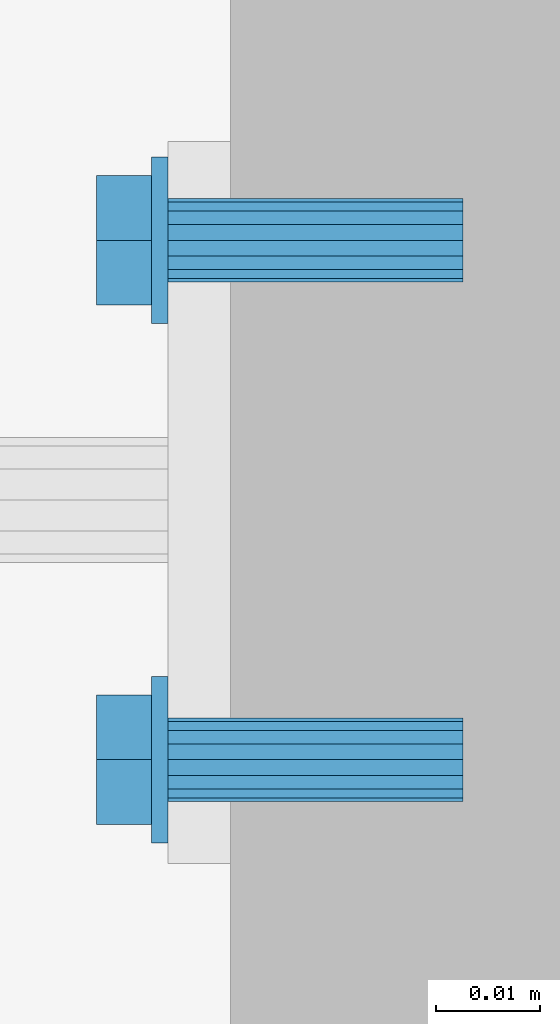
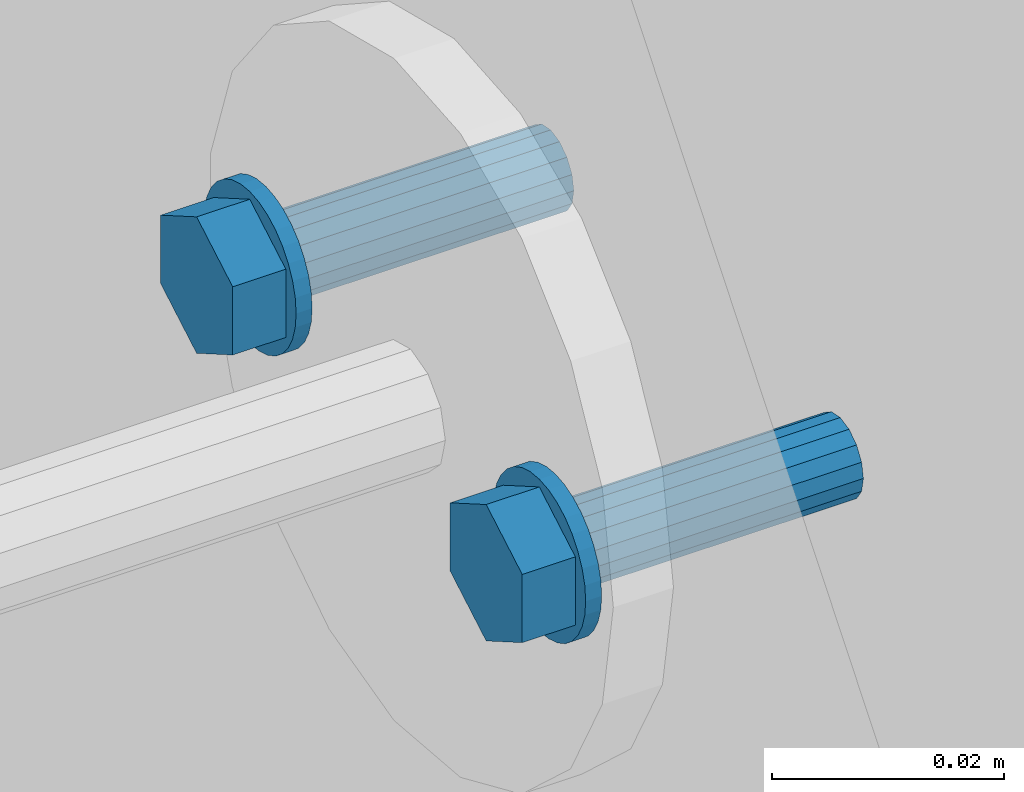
# One storey, part 362 of 410: 1 mechanical fastener.
"""IFC2X3 building model written with IfcOpenShell, lengths in millimetres."""

from ifc_helpers import new_model, entity, si_unit, converted_unit, origin_with_axes, place, context, project, spatial, faceted_brep, element, save


model = new_model("IFC2X3")

# Units and contexts
model_context = context("Model", 3, precision=1e-09, world=origin_with_axes())
ifc_project = project(units=[si_unit("LENGTHUNIT", "METRE", prefix="MILLI"), si_unit("AREAUNIT", "SQUARE_METRE"), si_unit("VOLUMEUNIT", "CUBIC_METRE"), converted_unit("PLANEANGLEUNIT", "DEGREE", entity("IfcPlaneAngleMeasure", 0.01745329), si_unit("PLANEANGLEUNIT", "RADIAN"), dimensions=[0, 0, 0, 0, 0, 0, 0])], contexts=[model_context])

# Site, building, storey
site_placement = place(None, origin_with_axes())
site = spatial("IfcSite", under=ifc_project, at=site_placement, Name="mKR Teilneubau & Sanierung BA1 - Ostfildern", CompositionType="ELEMENT")
building_placement = place(site_placement, origin_with_axes())
building = spatial("IfcBuilding", under=site, at=building_placement, Name="Struktur 1", CompositionType="ELEMENT")
storey_placement = place(building_placement, origin_with_axes())
storey = spatial("IfcBuildingStorey", under=building, at=storey_placement, Name="Default Storey", CompositionType="ELEMENT", Elevation=0.0)

# Mechanical fastener
mechanical_fastener_placement = place(None, origin_with_axes())
element("IfcMechanicalFastener", 1, at=mechanical_fastener_placement, inside=storey, ObjectType="-", NominalDiameter=8.0, NominalLength=30.0, context=model_context, shape_type="Brep", body=[
    faceted_brep([(3282.399216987, 18006.000030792, 2645.6434785), (3283.999216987, 18006.000030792, 2645.6434785), (3283.999216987, 18005.846313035, 2644.082755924), (3282.399216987, 18005.846313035, 2644.082755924), (3283.999216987, 18005.391067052, 2642.582011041), (3282.399216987, 18005.391067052, 2642.582011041), (3283.999216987, 18004.65178769, 2641.198916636), (3282.399216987, 18004.65178769, 2641.198916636), (3283.999216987, 18003.656885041, 2639.98662425), (3282.399216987, 18003.656885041, 2639.98662425), (3283.999216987, 18002.444592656, 2638.991721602), (3282.399216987, 18002.444592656, 2638.991721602), (3283.999216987, 18001.061498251, 2638.25244224), (3282.399216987, 18001.061498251, 2638.25244224), (3283.999216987, 17999.560753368, 2637.797196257), (3282.399216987, 17999.560753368, 2637.797196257), (3283.999216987, 17998.000030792, 2637.6434785), (3282.399216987, 17998.000030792, 2637.6434785), (3283.999216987, 17996.439308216, 2637.797196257), (3282.399216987, 17996.439308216, 2637.797196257), (3283.999216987, 17994.938563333, 2638.25244224), (3282.399216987, 17994.938563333, 2638.25244224), (3283.999216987, 17993.555468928, 2638.991721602), (3282.399216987, 17993.555468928, 2638.991721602), (3283.999216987, 17992.343176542, 2639.98662425), (3282.399216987, 17992.343176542, 2639.98662425), (3283.999216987, 17991.348273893, 2641.198916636), (3282.399216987, 17991.348273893, 2641.198916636), (3283.999216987, 17990.608994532, 2642.582011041), (3282.399216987, 17990.608994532, 2642.582011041), (3283.999216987, 17990.153748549, 2644.082755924), (3282.399216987, 17990.153748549, 2644.082755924), (3283.999216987, 17990.000030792, 2645.6434785), (3282.399216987, 17990.000030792, 2645.6434785), (3283.999216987, 17990.153748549, 2647.204201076), (3282.399216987, 17990.153748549, 2647.204201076), (3283.999216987, 17990.608994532, 2648.704945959), (3282.399216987, 17990.608994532, 2648.704945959), (3283.999216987, 17991.348273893, 2650.088040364), (3282.399216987, 17991.348273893, 2650.088040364), (3283.999216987, 17992.343176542, 2651.300332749), (3282.399216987, 17992.343176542, 2651.300332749), (3283.999216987, 17993.555468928, 2652.295235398), (3282.399216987, 17993.555468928, 2652.295235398), (3283.999216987, 17994.938563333, 2653.03451476), (3282.399216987, 17994.938563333, 2653.03451476), (3283.999216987, 17996.439308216, 2653.489760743), (3282.399216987, 17996.439308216, 2653.489760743), (3283.999216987, 17998.000030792, 2653.6434785), (3282.399216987, 17998.000030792, 2653.6434785), (3283.999216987, 17999.560753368, 2653.489760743), (3282.399216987, 17999.560753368, 2653.489760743), (3283.999216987, 18001.061498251, 2653.03451476), (3282.399216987, 18001.061498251, 2653.03451476), (3283.999216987, 18002.444592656, 2652.295235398), (3282.399216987, 18002.444592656, 2652.295235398), (3283.999216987, 18003.656885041, 2651.300332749), (3282.399216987, 18003.656885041, 2651.300332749), (3283.999216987, 18004.65178769, 2650.088040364), (3282.399216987, 18004.65178769, 2650.088040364), (3283.999216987, 18005.391067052, 2648.704945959), (3282.399216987, 18005.391067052, 2648.704945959), (3283.999216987, 18005.846313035, 2647.204201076), (3282.399216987, 18005.846313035, 2647.204201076)], [[[0, 1, 2, 3]], [[3, 2, 4, 5]], [[5, 4, 6, 7]], [[7, 6, 8, 9]], [[9, 8, 10, 11]], [[11, 10, 12, 13]], [[13, 12, 14, 15]], [[15, 14, 16, 17]], [[17, 16, 18, 19]], [[19, 18, 20, 21]], [[21, 20, 22, 23]], [[23, 22, 24, 25]], [[25, 24, 26, 27]], [[27, 26, 28, 29]], [[29, 28, 30, 31]], [[31, 30, 32, 33]], [[33, 32, 34, 35]], [[35, 34, 36, 37]], [[37, 36, 38, 39]], [[39, 38, 40, 41]], [[41, 40, 42, 43]], [[43, 42, 44, 45]], [[45, 44, 46, 47]], [[47, 46, 48, 49]], [[49, 48, 50, 51]], [[51, 50, 52, 53]], [[53, 52, 54, 55]], [[55, 54, 56, 57]], [[57, 56, 58, 59]], [[59, 58, 60, 61]], [[61, 60, 62, 63]], [[63, 62, 1, 0]], [[0, 3, 5, 7, 9, 11, 13, 15, 17, 19, 21, 23, 25, 27, 29, 31, 33, 35, 37, 39, 41, 43, 45, 47, 49, 51, 53, 55, 57, 59, 61, 63]], [[1, 62, 60, 58, 56, 54, 52, 50, 48, 46, 44, 42, 40, 38, 36, 34, 32, 30, 28, 26, 24, 22, 20, 18, 16, 14, 12, 10, 8, 6, 4, 2]]]),
    faceted_brep([(3282.399216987, 18056.000030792, 2645.6434785), (3283.999216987, 18056.000030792, 2645.6434785), (3283.999216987, 18055.846313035, 2644.082755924), (3282.399216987, 18055.846313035, 2644.082755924), (3283.999216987, 18055.391067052, 2642.582011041), (3282.399216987, 18055.391067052, 2642.582011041), (3283.999216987, 18054.65178769, 2641.198916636), (3282.399216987, 18054.65178769, 2641.198916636), (3283.999216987, 18053.656885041, 2639.98662425), (3282.399216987, 18053.656885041, 2639.98662425), (3283.999216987, 18052.444592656, 2638.991721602), (3282.399216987, 18052.444592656, 2638.991721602), (3283.999216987, 18051.061498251, 2638.25244224), (3282.399216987, 18051.061498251, 2638.25244224), (3283.999216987, 18049.560753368, 2637.797196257), (3282.399216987, 18049.560753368, 2637.797196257), (3283.999216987, 18048.000030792, 2637.6434785), (3282.399216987, 18048.000030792, 2637.6434785), (3283.999216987, 18046.439308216, 2637.797196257), (3282.399216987, 18046.439308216, 2637.797196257), (3283.999216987, 18044.938563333, 2638.25244224), (3282.399216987, 18044.938563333, 2638.25244224), (3283.999216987, 18043.555468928, 2638.991721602), (3282.399216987, 18043.555468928, 2638.991721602), (3283.999216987, 18042.343176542, 2639.98662425), (3282.399216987, 18042.343176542, 2639.98662425), (3283.999216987, 18041.348273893, 2641.198916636), (3282.399216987, 18041.348273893, 2641.198916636), (3283.999216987, 18040.608994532, 2642.582011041), (3282.399216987, 18040.608994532, 2642.582011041), (3283.999216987, 18040.153748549, 2644.082755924), (3282.399216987, 18040.153748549, 2644.082755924), (3283.999216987, 18040.000030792, 2645.6434785), (3282.399216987, 18040.000030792, 2645.6434785), (3283.999216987, 18040.153748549, 2647.204201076), (3282.399216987, 18040.153748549, 2647.204201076), (3283.999216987, 18040.608994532, 2648.704945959), (3282.399216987, 18040.608994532, 2648.704945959), (3283.999216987, 18041.348273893, 2650.088040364), (3282.399216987, 18041.348273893, 2650.088040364), (3283.999216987, 18042.343176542, 2651.300332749), (3282.399216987, 18042.343176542, 2651.300332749), (3283.999216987, 18043.555468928, 2652.295235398), (3282.399216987, 18043.555468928, 2652.295235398), (3283.999216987, 18044.938563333, 2653.03451476), (3282.399216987, 18044.938563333, 2653.03451476), (3283.999216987, 18046.439308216, 2653.489760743), (3282.399216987, 18046.439308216, 2653.489760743), (3283.999216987, 18048.000030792, 2653.6434785), (3282.399216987, 18048.000030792, 2653.6434785), (3283.999216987, 18049.560753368, 2653.489760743), (3282.399216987, 18049.560753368, 2653.489760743), (3283.999216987, 18051.061498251, 2653.03451476), (3282.399216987, 18051.061498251, 2653.03451476), (3283.999216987, 18052.444592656, 2652.295235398), (3282.399216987, 18052.444592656, 2652.295235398), (3283.999216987, 18053.656885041, 2651.300332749), (3282.399216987, 18053.656885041, 2651.300332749), (3283.999216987, 18054.65178769, 2650.088040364), (3282.399216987, 18054.65178769, 2650.088040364), (3283.999216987, 18055.391067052, 2648.704945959), (3282.399216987, 18055.391067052, 2648.704945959), (3283.999216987, 18055.846313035, 2647.204201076), (3282.399216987, 18055.846313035, 2647.204201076)], [[[0, 1, 2, 3]], [[3, 2, 4, 5]], [[5, 4, 6, 7]], [[7, 6, 8, 9]], [[9, 8, 10, 11]], [[11, 10, 12, 13]], [[13, 12, 14, 15]], [[15, 14, 16, 17]], [[17, 16, 18, 19]], [[19, 18, 20, 21]], [[21, 20, 22, 23]], [[23, 22, 24, 25]], [[25, 24, 26, 27]], [[27, 26, 28, 29]], [[29, 28, 30, 31]], [[31, 30, 32, 33]], [[33, 32, 34, 35]], [[35, 34, 36, 37]], [[37, 36, 38, 39]], [[39, 38, 40, 41]], [[41, 40, 42, 43]], [[43, 42, 44, 45]], [[45, 44, 46, 47]], [[47, 46, 48, 49]], [[49, 48, 50, 51]], [[51, 50, 52, 53]], [[53, 52, 54, 55]], [[55, 54, 56, 57]], [[57, 56, 58, 59]], [[59, 58, 60, 61]], [[61, 60, 62, 63]], [[63, 62, 1, 0]], [[0, 3, 5, 7, 9, 11, 13, 15, 17, 19, 21, 23, 25, 27, 29, 31, 33, 35, 37, 39, 41, 43, 45, 47, 49, 51, 53, 55, 57, 59, 61, 63]], [[1, 62, 60, 58, 56, 54, 52, 50, 48, 46, 44, 42, 40, 38, 36, 34, 32, 30, 28, 26, 24, 22, 20, 18, 16, 14, 12, 10, 8, 6, 4, 2]]]),
    faceted_brep([(3282.399216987, 17991.773308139, 2642.0484785), (3277.099216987, 17991.773308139, 2642.0484785), (3277.099216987, 17998.000030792, 2638.4534785), (3282.399216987, 17998.000030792, 2638.4534785), (3277.099216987, 18004.226753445, 2642.0484785), (3282.399216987, 18004.226753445, 2642.0484785), (3277.099216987, 18004.226753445, 2649.2384785), (3282.399216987, 18004.226753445, 2649.2384785), (3277.099216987, 17998.000030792, 2652.8334785), (3282.399216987, 17998.000030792, 2652.8334785), (3277.099216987, 17991.773308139, 2649.2384785), (3282.399216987, 17991.773308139, 2649.2384785)], [[[0, 1, 2, 3]], [[3, 2, 4, 5]], [[5, 4, 6, 7]], [[7, 6, 8, 9]], [[9, 8, 10, 11]], [[11, 10, 1, 0]], [[4, 2, 1, 10, 8, 6]], [[0, 3, 5, 7, 9, 11]]]),
    faceted_brep([(3282.399216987, 18041.773308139, 2642.0484785), (3277.099216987, 18041.773308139, 2642.0484785), (3277.099216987, 18048.000030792, 2638.4534785), (3282.399216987, 18048.000030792, 2638.4534785), (3277.099216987, 18054.226753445, 2642.0484785), (3282.399216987, 18054.226753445, 2642.0484785), (3277.099216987, 18054.226753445, 2649.2384785), (3282.399216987, 18054.226753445, 2649.2384785), (3277.099216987, 18048.000030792, 2652.8334785), (3282.399216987, 18048.000030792, 2652.8334785), (3277.099216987, 18041.773308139, 2649.2384785), (3282.399216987, 18041.773308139, 2649.2384785)], [[[0, 1, 2, 3]], [[3, 2, 4, 5]], [[5, 4, 6, 7]], [[7, 6, 8, 9]], [[9, 8, 10, 11]], [[11, 10, 1, 0]], [[4, 2, 1, 10, 8, 6]], [[0, 3, 5, 7, 9, 11]]]),
    faceted_brep([(3283.999216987, 18002.000030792, 2645.6434785), (3293.999216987, 18002.000030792, 2645.6434785), (3293.999216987, 18001.695548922, 2644.112744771), (3283.999216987, 18001.695548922, 2644.112744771), (3293.999216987, 18000.828457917, 2642.815051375), (3283.999216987, 18000.828457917, 2642.815051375), (3293.999216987, 17999.530764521, 2641.94796037), (3283.999216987, 17999.530764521, 2641.94796037), (3293.999216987, 17998.000030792, 2641.6434785), (3283.999216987, 17998.000030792, 2641.6434785), (3293.999216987, 17996.469297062, 2641.94796037), (3283.999216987, 17996.469297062, 2641.94796037), (3293.999216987, 17995.171603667, 2642.815051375), (3283.999216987, 17995.171603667, 2642.815051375), (3293.999216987, 17994.304512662, 2644.112744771), (3283.999216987, 17994.304512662, 2644.112744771), (3293.999216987, 17994.000030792, 2645.6434785), (3283.999216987, 17994.000030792, 2645.6434785), (3293.999216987, 17994.304512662, 2647.174212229), (3283.999216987, 17994.304512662, 2647.174212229), (3293.999216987, 17995.171603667, 2648.471905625), (3283.999216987, 17995.171603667, 2648.471905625), (3293.999216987, 17996.469297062, 2649.33899663), (3283.999216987, 17996.469297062, 2649.33899663), (3293.999216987, 17998.000030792, 2649.6434785), (3283.999216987, 17998.000030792, 2649.6434785), (3293.999216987, 17999.530764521, 2649.33899663), (3283.999216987, 17999.530764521, 2649.33899663), (3293.999216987, 18000.828457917, 2648.471905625), (3283.999216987, 18000.828457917, 2648.471905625), (3293.999216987, 18001.695548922, 2647.174212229), (3283.999216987, 18001.695548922, 2647.174212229)], [[[0, 1, 2, 3]], [[3, 2, 4, 5]], [[5, 4, 6, 7]], [[7, 6, 8, 9]], [[9, 8, 10, 11]], [[11, 10, 12, 13]], [[13, 12, 14, 15]], [[15, 14, 16, 17]], [[17, 16, 18, 19]], [[19, 18, 20, 21]], [[21, 20, 22, 23]], [[23, 22, 24, 25]], [[25, 24, 26, 27]], [[27, 26, 28, 29]], [[29, 28, 30, 31]], [[31, 30, 1, 0]], [[0, 3, 5, 7, 9, 11, 13, 15, 17, 19, 21, 23, 25, 27, 29, 31]], [[1, 30, 28, 26, 24, 22, 20, 18, 16, 14, 12, 10, 8, 6, 4, 2]]]),
    faceted_brep([(3283.999216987, 18052.000030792, 2645.6434785), (3293.999216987, 18052.000030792, 2645.6434785), (3293.999216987, 18051.695548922, 2644.112744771), (3283.999216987, 18051.695548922, 2644.112744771), (3293.999216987, 18050.828457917, 2642.815051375), (3283.999216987, 18050.828457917, 2642.815051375), (3293.999216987, 18049.530764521, 2641.94796037), (3283.999216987, 18049.530764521, 2641.94796037), (3293.999216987, 18048.000030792, 2641.6434785), (3283.999216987, 18048.000030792, 2641.6434785), (3293.999216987, 18046.469297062, 2641.94796037), (3283.999216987, 18046.469297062, 2641.94796037), (3293.999216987, 18045.171603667, 2642.815051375), (3283.999216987, 18045.171603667, 2642.815051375), (3293.999216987, 18044.304512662, 2644.112744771), (3283.999216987, 18044.304512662, 2644.112744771), (3293.999216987, 18044.000030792, 2645.6434785), (3283.999216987, 18044.000030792, 2645.6434785), (3293.999216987, 18044.304512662, 2647.174212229), (3283.999216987, 18044.304512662, 2647.174212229), (3293.999216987, 18045.171603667, 2648.471905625), (3283.999216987, 18045.171603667, 2648.471905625), (3293.999216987, 18046.469297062, 2649.33899663), (3283.999216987, 18046.469297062, 2649.33899663), (3293.999216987, 18048.000030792, 2649.6434785), (3283.999216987, 18048.000030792, 2649.6434785), (3293.999216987, 18049.530764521, 2649.33899663), (3283.999216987, 18049.530764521, 2649.33899663), (3293.999216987, 18050.828457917, 2648.471905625), (3283.999216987, 18050.828457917, 2648.471905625), (3293.999216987, 18051.695548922, 2647.174212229), (3283.999216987, 18051.695548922, 2647.174212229)], [[[0, 1, 2, 3]], [[3, 2, 4, 5]], [[5, 4, 6, 7]], [[7, 6, 8, 9]], [[9, 8, 10, 11]], [[11, 10, 12, 13]], [[13, 12, 14, 15]], [[15, 14, 16, 17]], [[17, 16, 18, 19]], [[19, 18, 20, 21]], [[21, 20, 22, 23]], [[23, 22, 24, 25]], [[25, 24, 26, 27]], [[27, 26, 28, 29]], [[29, 28, 30, 31]], [[31, 30, 1, 0]], [[0, 3, 5, 7, 9, 11, 13, 15, 17, 19, 21, 23, 25, 27, 29, 31]], [[1, 30, 28, 26, 24, 22, 20, 18, 16, 14, 12, 10, 8, 6, 4, 2]]]),
    faceted_brep([(3293.999216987, 18002.000030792, 2645.6434785), (3312.399216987, 18002.000030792, 2645.6434785), (3312.399216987, 18001.695548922, 2644.112744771), (3293.999216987, 18001.695548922, 2644.112744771), (3312.399216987, 18000.828457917, 2642.815051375), (3293.999216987, 18000.828457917, 2642.815051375), (3312.399216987, 17999.530764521, 2641.94796037), (3293.999216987, 17999.530764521, 2641.94796037), (3312.399216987, 17998.000030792, 2641.6434785), (3293.999216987, 17998.000030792, 2641.6434785), (3312.399216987, 17996.469297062, 2641.94796037), (3293.999216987, 17996.469297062, 2641.94796037), (3312.399216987, 17995.171603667, 2642.815051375), (3293.999216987, 17995.171603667, 2642.815051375), (3312.399216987, 17994.304512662, 2644.112744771), (3293.999216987, 17994.304512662, 2644.112744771), (3312.399216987, 17994.000030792, 2645.6434785), (3293.999216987, 17994.000030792, 2645.6434785), (3312.399216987, 17994.304512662, 2647.174212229), (3293.999216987, 17994.304512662, 2647.174212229), (3312.399216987, 17995.171603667, 2648.471905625), (3293.999216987, 17995.171603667, 2648.471905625), (3312.399216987, 17996.469297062, 2649.33899663), (3293.999216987, 17996.469297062, 2649.33899663), (3312.399216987, 17998.000030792, 2649.6434785), (3293.999216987, 17998.000030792, 2649.6434785), (3312.399216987, 17999.530764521, 2649.33899663), (3293.999216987, 17999.530764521, 2649.33899663), (3312.399216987, 18000.828457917, 2648.471905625), (3293.999216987, 18000.828457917, 2648.471905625), (3312.399216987, 18001.695548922, 2647.174212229), (3293.999216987, 18001.695548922, 2647.174212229)], [[[0, 1, 2, 3]], [[3, 2, 4, 5]], [[5, 4, 6, 7]], [[7, 6, 8, 9]], [[9, 8, 10, 11]], [[11, 10, 12, 13]], [[13, 12, 14, 15]], [[15, 14, 16, 17]], [[17, 16, 18, 19]], [[19, 18, 20, 21]], [[21, 20, 22, 23]], [[23, 22, 24, 25]], [[25, 24, 26, 27]], [[27, 26, 28, 29]], [[29, 28, 30, 31]], [[31, 30, 1, 0]], [[0, 3, 5, 7, 9, 11, 13, 15, 17, 19, 21, 23, 25, 27, 29, 31]], [[1, 30, 28, 26, 24, 22, 20, 18, 16, 14, 12, 10, 8, 6, 4, 2]]]),
    faceted_brep([(3293.999216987, 18052.000030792, 2645.6434785), (3312.399216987, 18052.000030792, 2645.6434785), (3312.399216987, 18051.695548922, 2644.112744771), (3293.999216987, 18051.695548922, 2644.112744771), (3312.399216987, 18050.828457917, 2642.815051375), (3293.999216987, 18050.828457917, 2642.815051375), (3312.399216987, 18049.530764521, 2641.94796037), (3293.999216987, 18049.530764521, 2641.94796037), (3312.399216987, 18048.000030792, 2641.6434785), (3293.999216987, 18048.000030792, 2641.6434785), (3312.399216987, 18046.469297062, 2641.94796037), (3293.999216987, 18046.469297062, 2641.94796037), (3312.399216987, 18045.171603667, 2642.815051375), (3293.999216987, 18045.171603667, 2642.815051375), (3312.399216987, 18044.304512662, 2644.112744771), (3293.999216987, 18044.304512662, 2644.112744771), (3312.399216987, 18044.000030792, 2645.6434785), (3293.999216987, 18044.000030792, 2645.6434785), (3312.399216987, 18044.304512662, 2647.174212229), (3293.999216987, 18044.304512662, 2647.174212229), (3312.399216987, 18045.171603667, 2648.471905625), (3293.999216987, 18045.171603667, 2648.471905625), (3312.399216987, 18046.469297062, 2649.33899663), (3293.999216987, 18046.469297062, 2649.33899663), (3312.399216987, 18048.000030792, 2649.6434785), (3293.999216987, 18048.000030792, 2649.6434785), (3312.399216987, 18049.530764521, 2649.33899663), (3293.999216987, 18049.530764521, 2649.33899663), (3312.399216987, 18050.828457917, 2648.471905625), (3293.999216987, 18050.828457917, 2648.471905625), (3312.399216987, 18051.695548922, 2647.174212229), (3293.999216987, 18051.695548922, 2647.174212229)], [[[0, 1, 2, 3]], [[3, 2, 4, 5]], [[5, 4, 6, 7]], [[7, 6, 8, 9]], [[9, 8, 10, 11]], [[11, 10, 12, 13]], [[13, 12, 14, 15]], [[15, 14, 16, 17]], [[17, 16, 18, 19]], [[19, 18, 20, 21]], [[21, 20, 22, 23]], [[23, 22, 24, 25]], [[25, 24, 26, 27]], [[27, 26, 28, 29]], [[29, 28, 30, 31]], [[31, 30, 1, 0]], [[0, 3, 5, 7, 9, 11, 13, 15, 17, 19, 21, 23, 25, 27, 29, 31]], [[1, 30, 28, 26, 24, 22, 20, 18, 16, 14, 12, 10, 8, 6, 4, 2]]]),
])

save(model, "model.ifc")
